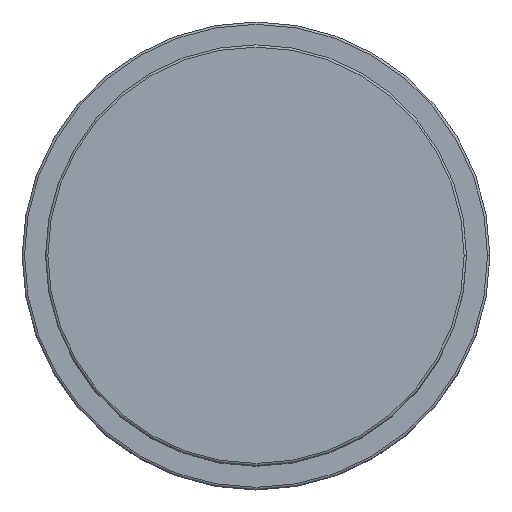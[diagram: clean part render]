
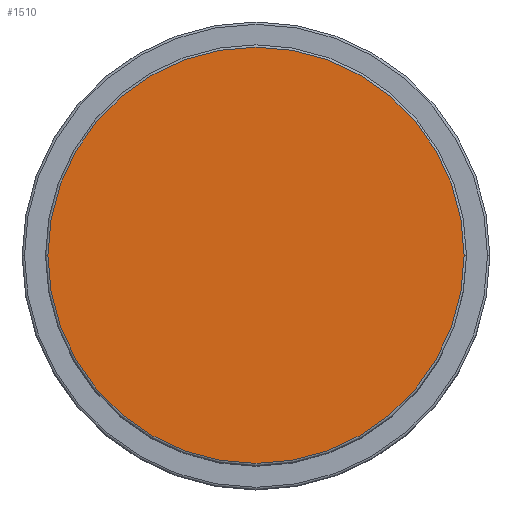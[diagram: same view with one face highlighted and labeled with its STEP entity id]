
A CAD part, top view. The second image highlights one B-rep face of the part: STEP entity #1510.
In plain terms, the highlighted planar face has unit normal (0, 0, 1).
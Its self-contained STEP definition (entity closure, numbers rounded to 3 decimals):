
#114 = EDGE_CURVE ( 'NONE', #1239, #205, #152, .T. ) ;
#152 = CIRCLE ( 'NONE', #604, 44.5 ) ;
#205 = VERTEX_POINT ( 'NONE', #1122 ) ;
#221 = PLANE ( 'NONE',  #921 ) ;
#304 = ORIENTED_EDGE ( 'NONE', *, *, #114, .T. ) ;
#417 = CIRCLE ( 'NONE', #1140, 44.5 ) ;
#490 = DIRECTION ( 'NONE',  ( 0., 0., 1. ) ) ;
#500 = DIRECTION ( 'NONE',  ( 0., 0., 1. ) ) ;
#587 = CARTESIAN_POINT ( 'NONE',  ( 44.5, 0., 87. ) ) ;
#604 = AXIS2_PLACEMENT_3D ( 'NONE', #615, #490, #1495 ) ;
#615 = CARTESIAN_POINT ( 'NONE',  ( 0., 0., 87. ) ) ;
#781 = EDGE_CURVE ( 'NONE', #205, #1239, #417, .T. ) ;
#855 = EDGE_LOOP ( 'NONE', ( #304, #1199 ) ) ;
#884 = CARTESIAN_POINT ( 'NONE',  ( 0., 0., 87. ) ) ;
#921 = AXIS2_PLACEMENT_3D ( 'NONE', #884, #500, #1498 ) ;
#1122 = CARTESIAN_POINT ( 'NONE',  ( -44.5, 0., 87. ) ) ;
#1140 = AXIS2_PLACEMENT_3D ( 'NONE', #1381, #1374, #1619 ) ;
#1199 = ORIENTED_EDGE ( 'NONE', *, *, #781, .T. ) ;
#1239 = VERTEX_POINT ( 'NONE', #587 ) ;
#1374 = DIRECTION ( 'NONE',  ( 0., 0., 1. ) ) ;
#1381 = CARTESIAN_POINT ( 'NONE',  ( 0., 0., 87. ) ) ;
#1429 = FACE_OUTER_BOUND ( 'NONE', #855, .T. ) ;
#1495 = DIRECTION ( 'NONE',  ( 1., 0., 0. ) ) ;
#1498 = DIRECTION ( 'NONE',  ( 1., 0., 0. ) ) ;
#1510 = ADVANCED_FACE ( 'NONE', ( #1429 ), #221, .T. ) ;
#1619 = DIRECTION ( 'NONE',  ( 1., 0., 0. ) ) ;
